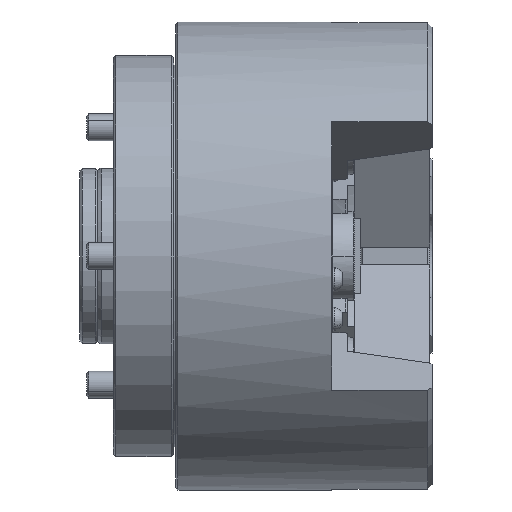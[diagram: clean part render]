
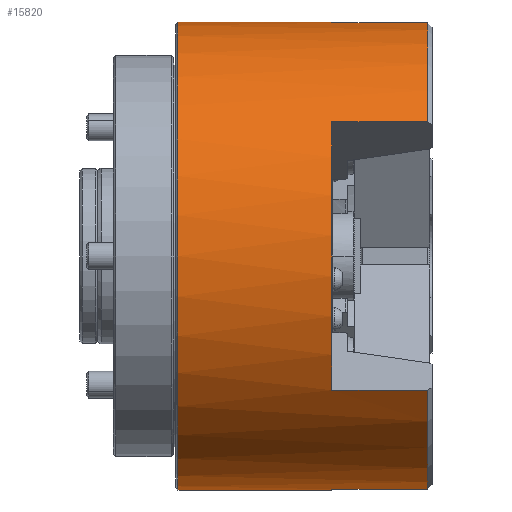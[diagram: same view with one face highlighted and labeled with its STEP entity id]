
A CAD part, front view. The second image highlights one B-rep face of the part: STEP entity #15820.
In plain terms, the highlighted cylindrical face has radius 105 mm (diameter 210 mm), a partial arc.
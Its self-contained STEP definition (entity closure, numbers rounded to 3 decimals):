
#16 = EDGE_CURVE ( 'NONE', #19236, #31412, #9389, .T. ) ;
#392 = LINE ( 'NONE', #15690, #1244 ) ;
#1244 = VECTOR ( 'NONE', #34539, 1000. ) ;
#1571 = CARTESIAN_POINT ( 'NONE',  ( 63.843, 0., -105. ) ) ;
#1684 = CARTESIAN_POINT ( 'NONE',  ( 63.843, 0., 0. ) ) ;
#1751 = DIRECTION ( 'NONE',  ( 0., 0., -1. ) ) ;
#1928 = EDGE_CURVE ( 'NONE', #27854, #32191, #8914, .T. ) ;
#2341 = CARTESIAN_POINT ( 'NONE',  ( 65., -9.151, -104.6 ) ) ;
#2799 = EDGE_CURVE ( 'NONE', #18770, #28600, #32502, .T. ) ;
#3850 = CARTESIAN_POINT ( 'NONE',  ( 65., -9.151, -104.6 ) ) ;
#4140 = ORIENTED_EDGE ( 'NONE', *, *, #1928, .T. ) ;
#4555 = VECTOR ( 'NONE', #16013, 1000. ) ;
#4797 = CARTESIAN_POINT ( 'NONE',  ( 108., -86.011, -60.226 ) ) ;
#6701 = AXIS2_PLACEMENT_3D ( 'NONE', #10124, #28982, #12840 ) ;
#7016 = VECTOR ( 'NONE', #17593, 1000. ) ;
#7525 = DIRECTION ( 'NONE',  ( 1., 0., 0. ) ) ;
#7642 = CARTESIAN_POINT ( 'NONE',  ( 65., 0., 0. ) ) ;
#7714 = CARTESIAN_POINT ( 'NONE',  ( 65., -9.151, 104.6 ) ) ;
#7879 = EDGE_CURVE ( 'NONE', #25050, #30561, #24889, .T. ) ;
#7965 = AXIS2_PLACEMENT_3D ( 'NONE', #34003, #17898, #1751 ) ;
#8674 = EDGE_CURVE ( 'NONE', #23406, #32191, #11383, .T. ) ;
#8806 = CARTESIAN_POINT ( 'NONE',  ( 65., -86.011, -60.226 ) ) ;
#8914 = LINE ( 'NONE', #3850, #29602 ) ;
#8935 = DIRECTION ( 'NONE',  ( 1., 0., 0. ) ) ;
#9064 = EDGE_CURVE ( 'NONE', #19236, #31522, #28202, .T. ) ;
#9389 = CIRCLE ( 'NONE', #11094, 105. ) ;
#9568 = LINE ( 'NONE', #1571, #7016 ) ;
#9659 = DIRECTION ( 'NONE',  ( 1., 0., 0. ) ) ;
#10124 = CARTESIAN_POINT ( 'NONE',  ( 65., 0., 0. ) ) ;
#10277 = AXIS2_PLACEMENT_3D ( 'NONE', #1684, #9659, #15080 ) ;
#10402 = DIRECTION ( 'NONE',  ( 0., -0.866, 0.5 ) ) ;
#10514 = ORIENTED_EDGE ( 'NONE', *, *, #15908, .F. ) ;
#10773 = EDGE_CURVE ( 'NONE', #28600, #33673, #9568, .T. ) ;
#11094 = AXIS2_PLACEMENT_3D ( 'NONE', #11875, #12493, #32535 ) ;
#11383 = CIRCLE ( 'NONE', #33388, 105. ) ;
#11604 = CARTESIAN_POINT ( 'NONE',  ( 65., -86.011, 60.226 ) ) ;
#11875 = CARTESIAN_POINT ( 'NONE',  ( 65., 0., 0. ) ) ;
#11967 = CARTESIAN_POINT ( 'NONE',  ( 65., -9.151, 104.6 ) ) ;
#12065 = ORIENTED_EDGE ( 'NONE', *, *, #19196, .F. ) ;
#12493 = DIRECTION ( 'NONE',  ( 1., 0., 0. ) ) ;
#12590 = LINE ( 'NONE', #21212, #19781 ) ;
#12840 = DIRECTION ( 'NONE',  ( 0., 0.866, 0.5 ) ) ;
#13234 = EDGE_LOOP ( 'NONE', ( #26602, #20223, #31344, #23383, #4140, #15489, #34747, #27610, #21486, #10514, #12065, #30859 ) ) ;
#13467 = VERTEX_POINT ( 'NONE', #15867 ) ;
#13595 = FACE_OUTER_BOUND ( 'NONE', #13234, .T. ) ;
#14950 = CARTESIAN_POINT ( 'NONE',  ( 108., -86.011, 60.226 ) ) ;
#15080 = DIRECTION ( 'NONE',  ( 0., 0., -1. ) ) ;
#15152 = DIRECTION ( 'NONE',  ( 1., 0., 0. ) ) ;
#15489 = ORIENTED_EDGE ( 'NONE', *, *, #8674, .F. ) ;
#15690 = CARTESIAN_POINT ( 'NONE',  ( 63.843, 0., 105. ) ) ;
#15820 = ADVANCED_FACE ( 'NONE', ( #13595 ), #27053, .T. ) ;
#15867 = CARTESIAN_POINT ( 'NONE',  ( 108., -9.151, 104.6 ) ) ;
#15908 = EDGE_CURVE ( 'NONE', #13467, #31522, #32549, .T. ) ;
#16013 = DIRECTION ( 'NONE',  ( 1., 0., 0. ) ) ;
#17593 = DIRECTION ( 'NONE',  ( 1., 0., 0. ) ) ;
#17898 = DIRECTION ( 'NONE',  ( 1., 0., 0. ) ) ;
#18302 = CARTESIAN_POINT ( 'NONE',  ( 65., 0., 105. ) ) ;
#18745 = EDGE_CURVE ( 'NONE', #18770, #25050, #392, .T. ) ;
#18770 = VERTEX_POINT ( 'NONE', #31814 ) ;
#19153 = EDGE_CURVE ( 'NONE', #31412, #23406, #12590, .T. ) ;
#19196 = EDGE_CURVE ( 'NONE', #30561, #13467, #34083, .T. ) ;
#19236 = VERTEX_POINT ( 'NONE', #29770 ) ;
#19327 = AXIS2_PLACEMENT_3D ( 'NONE', #23704, #7525, #26348 ) ;
#19781 = VECTOR ( 'NONE', #23904, 1000. ) ;
#20223 = ORIENTED_EDGE ( 'NONE', *, *, #2799, .T. ) ;
#20305 = AXIS2_PLACEMENT_3D ( 'NONE', #7642, #26494, #10402 ) ;
#21096 = VECTOR ( 'NONE', #27720, 1000. ) ;
#21212 = CARTESIAN_POINT ( 'NONE',  ( 65., -86.011, -60.226 ) ) ;
#21486 = ORIENTED_EDGE ( 'NONE', *, *, #9064, .T. ) ;
#23383 = ORIENTED_EDGE ( 'NONE', *, *, #31638, .F. ) ;
#23406 = VERTEX_POINT ( 'NONE', #4797 ) ;
#23704 = CARTESIAN_POINT ( 'NONE',  ( 108., 0., 0. ) ) ;
#23904 = DIRECTION ( 'NONE',  ( 1., 0., 0. ) ) ;
#24889 = CIRCLE ( 'NONE', #20305, 105. ) ;
#25050 = VERTEX_POINT ( 'NONE', #18302 ) ;
#26348 = DIRECTION ( 'NONE',  ( 0., 0., -1. ) ) ;
#26494 = DIRECTION ( 'NONE',  ( 1., 0., 0. ) ) ;
#26602 = ORIENTED_EDGE ( 'NONE', *, *, #18745, .F. ) ;
#27053 = CYLINDRICAL_SURFACE ( 'NONE', #10277, 105. ) ;
#27610 = ORIENTED_EDGE ( 'NONE', *, *, #16, .F. ) ;
#27720 = DIRECTION ( 'NONE',  ( 1., 0., 0. ) ) ;
#27854 = VERTEX_POINT ( 'NONE', #2341 ) ;
#28202 = LINE ( 'NONE', #11604, #21096 ) ;
#28600 = VERTEX_POINT ( 'NONE', #32843 ) ;
#28982 = DIRECTION ( 'NONE',  ( 1., 0., 0. ) ) ;
#29602 = VECTOR ( 'NONE', #8935, 1000. ) ;
#29770 = CARTESIAN_POINT ( 'NONE',  ( 65., -86.011, 60.226 ) ) ;
#29857 = CIRCLE ( 'NONE', #6701, 105. ) ;
#30561 = VERTEX_POINT ( 'NONE', #11967 ) ;
#30859 = ORIENTED_EDGE ( 'NONE', *, *, #7879, .F. ) ;
#31291 = CARTESIAN_POINT ( 'NONE',  ( 108., 0., 0. ) ) ;
#31344 = ORIENTED_EDGE ( 'NONE', *, *, #10773, .T. ) ;
#31412 = VERTEX_POINT ( 'NONE', #8806 ) ;
#31522 = VERTEX_POINT ( 'NONE', #14950 ) ;
#31638 = EDGE_CURVE ( 'NONE', #27854, #33673, #29857, .T. ) ;
#31647 = CARTESIAN_POINT ( 'NONE',  ( 108., -9.151, -104.6 ) ) ;
#31814 = CARTESIAN_POINT ( 'NONE',  ( -4., 0., 105. ) ) ;
#32191 = VERTEX_POINT ( 'NONE', #31647 ) ;
#32218 = CARTESIAN_POINT ( 'NONE',  ( 65., 0., -105. ) ) ;
#32502 = CIRCLE ( 'NONE', #7965, 105. ) ;
#32535 = DIRECTION ( 'NONE',  ( 0., 0., -1. ) ) ;
#32549 = CIRCLE ( 'NONE', #19327, 105. ) ;
#32843 = CARTESIAN_POINT ( 'NONE',  ( -4., 0., -105. ) ) ;
#33388 = AXIS2_PLACEMENT_3D ( 'NONE', #31291, #15152, #34005 ) ;
#33673 = VERTEX_POINT ( 'NONE', #32218 ) ;
#34003 = CARTESIAN_POINT ( 'NONE',  ( -4., 0., 0. ) ) ;
#34005 = DIRECTION ( 'NONE',  ( 0., 0., -1. ) ) ;
#34083 = LINE ( 'NONE', #7714, #4555 ) ;
#34539 = DIRECTION ( 'NONE',  ( 1., 0., 0. ) ) ;
#34747 = ORIENTED_EDGE ( 'NONE', *, *, #19153, .F. ) ;
